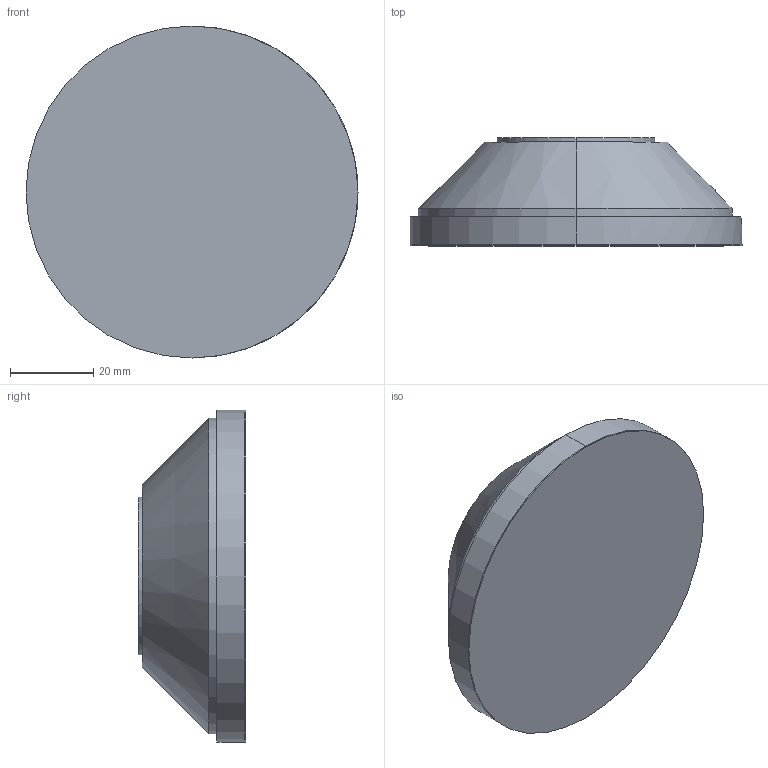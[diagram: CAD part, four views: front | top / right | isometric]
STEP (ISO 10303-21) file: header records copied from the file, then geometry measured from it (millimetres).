
FILE_DESCRIPTION (( 'STEP AP203' ), '1' );
FILE_NAME ('EZ-0053-080 Standardlager Bestell-Nr. 0003713.STEP', '2021-09-16T15:19:02', ( '' ), ( '' ), 'SwSTEP 2.0', 'SolidWorks 2021', '' );
FILE_SCHEMA (( 'CONFIG_CONTROL_DESIGN' ));
Length unit declared in the file: millimetre
Products named in the file (1): EZ-0053-080 Standardlager  Bestell-Nr. 0003713
Bounding box: 80 x 26 x 80 mm (x, y, z)
Volume: 90151.2 mm3; surface area: 24845.4 mm2
Topology: 4 solids, 4 shells, 79 faces, 174 edges, 108 vertices
Faces by surface type: cylinder 34, plane 23, cone 12, torus 8, sphere 2
Entity records: 2297 total; most frequent: CARTESIAN_POINT 422, DIRECTION 420, ORIENTED_EDGE 340, AXIS2_PLACEMENT_3D 178, EDGE_CURVE 170, VERTEX_POINT 108, CIRCLE 98, EDGE_LOOP 90
